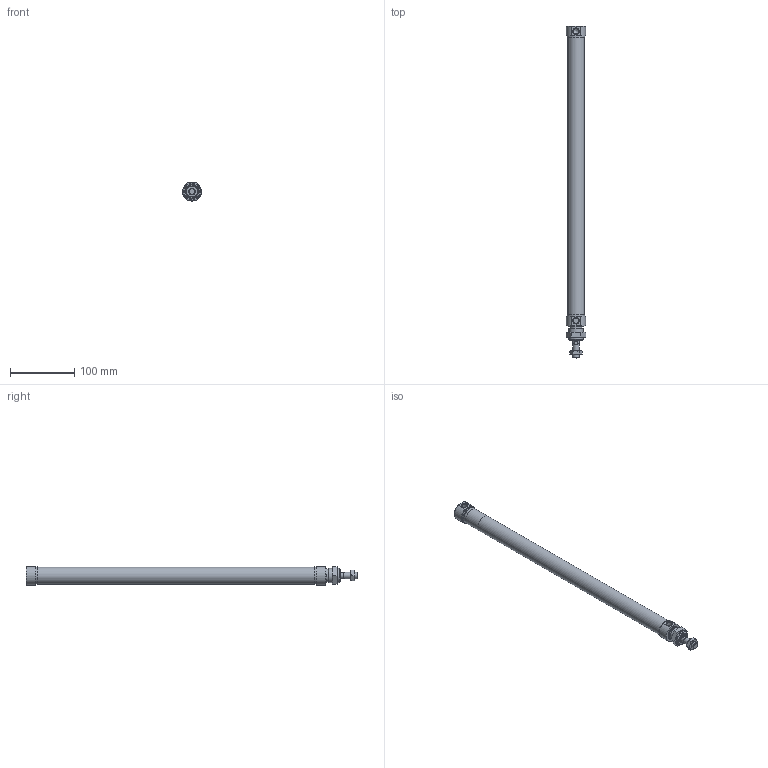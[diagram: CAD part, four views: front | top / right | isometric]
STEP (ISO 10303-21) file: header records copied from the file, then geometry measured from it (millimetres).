
FILE_DESCRIPTION(/* description */ ('Unknown'),/* implementation_level */ '2;1');
FILE_NAME(/* name */ 'RIMR 25_400',/* time_stamp */ '2024-08-30T09:32:26+02:00',/* author */ ('Unknown'),/* organization */ ('Unknown'),/* preprocessor_version */ 'ST-DEVELOPER v16.7',/* originating_system */ 'Solid Edge',/* authorisation */ 'Unknown');
FILE_SCHEMA (('AUTOMOTIVE_DESIGN {1 0 10303 214 3 1 1}'));
Length unit declared in the file: millimetre
Products named in the file (7): RIMR 25_400; Profilrohr; Kolbenstange; Kit_1; Kit_2; Mutter_1; Mutter_2
Assembly tree (6 placements, depth 2):
  RIMR 25_400
    Profilrohr
    Kolbenstange
    Kit_1
    Kit_2
    Mutter_1
    Mutter_2
Bounding box: 31.18 x 518 x 28.44 mm (x, y, z)
Volume: 112065.3 mm3; surface area: 100516.1 mm2
Topology: 6 solids, 6 shells, 124 faces, 248 edges, 150 vertices
Faces by surface type: plane 48, cone 38, cylinder 31, torus 7
Full cylindrical faces by diameter (mm): 2 x1, 5 x1, 8.56 x1, 8.566 x2, 8.647 x1, 10 x2, 10.5 x1, 11.1 x1, 14 x1, 14.1 x1, 16.1 x1, 16.2 x1, 19.7 x1, 20.376 x1, 22 x2, 22.9 x1, 25 x3, 26.5 x1, 27 x2
Entity records: 3770 total; most frequent: CARTESIAN_POINT 546, DIRECTION 504, ORIENTED_EDGE 360, AXIS2_PLACEMENT_3D 234, FACE_BOUND 204, EDGE_LOOP 203, EDGE_CURVE 180, VERTEX_POINT 140
